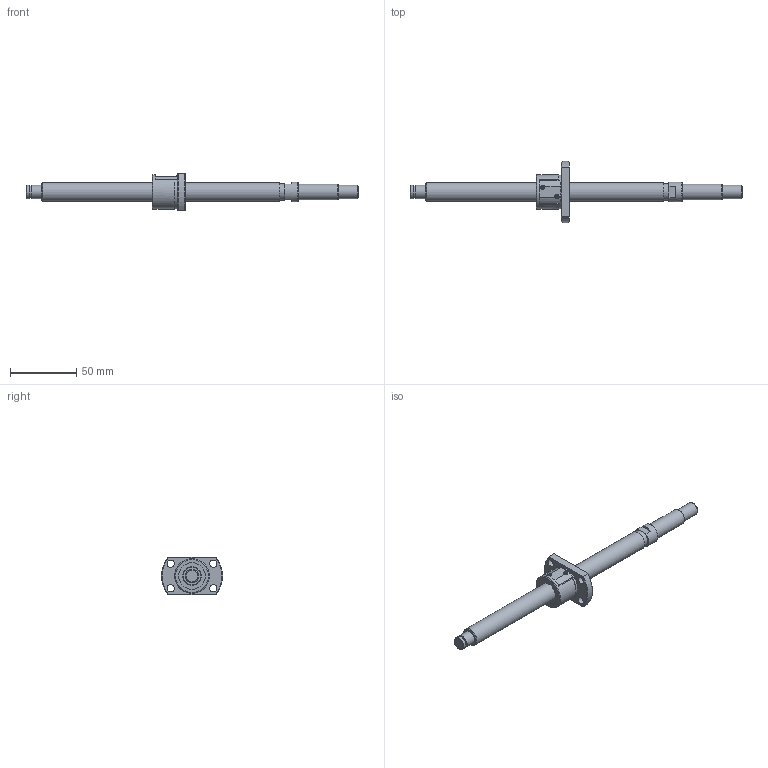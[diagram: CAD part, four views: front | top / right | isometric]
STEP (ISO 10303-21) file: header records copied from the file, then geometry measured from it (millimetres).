
FILE_DESCRIPTION(/* description */ ('STEP AP214'),/* implementation_level */ '2;1');
FILE_NAME(/* name */ 'SG1402-179R250C3B0X(83)',/* time_stamp */ '2026-07-24T20:59:59+02:00',/* author */ ('License CC BY-ND 4.0'),/* organization */ ('CADENAS'),/* preprocessor_version */ 'ST-DEVELOPER v20',/* originating_system */ 'PARTsolutions',/* authorisation */ ' ');
FILE_SCHEMA (('AUTOMOTIVE_DESIGN {1 0 10303 214 3 1 1}'));
Length unit declared in the file: millimetre
Products named in the file (3): SG1402-179R250C3B0X(83); SG1402-179R250C3B_shaft; SG1402_nut
Assembly tree (2 placements, depth 2):
  SG1402-179R250C3B0X(83)
    SG1402-179R250C3B_shaft
    SG1402_nut
Bounding box: 250 x 46 x 28 mm (x, y, z)
Volume: 47487.3 mm3; surface area: 16660.6 mm2
Topology: 2 solids, 2 shells, 85 faces, 201 edges, 131 vertices
Faces by surface type: plane 41, cylinder 29, cone 14, torus 1
Full cylindrical faces by diameter (mm): 5.5 x4, 9.6 x1, 10 x3, 12 x1, 12.77 x1, 14 x2, 15 x1, 20 x2, 25.6 x1, 26 x1
Entity records: 2355 total; most frequent: CARTESIAN_POINT 432, DIRECTION 404, ORIENTED_EDGE 326, AXIS2_PLACEMENT_3D 171, EDGE_CURVE 163, EDGE_LOOP 134, FACE_BOUND 134, VERTEX_POINT 121
